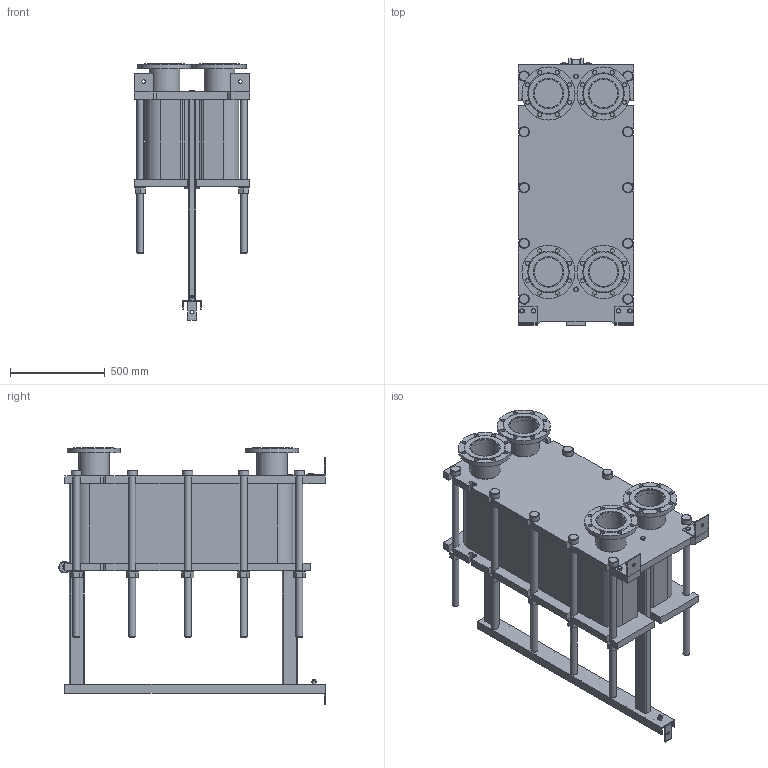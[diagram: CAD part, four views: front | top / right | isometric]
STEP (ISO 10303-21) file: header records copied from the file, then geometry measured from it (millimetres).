
FILE_DESCRIPTION(/* description */ (''),/* implementation_level */ '2;1');
FILE_NAME(/* name */ 'C:\Users\zhuro\Desktop\ENCO\TO\ЭН-041\ЭН-0,5-041-122-1.stp',/* time_stamp */ '2022-06-06T10:59:46+03:00',/* author */ ('zhuro'),/* organization */ (''),/* preprocessor_version */ 'ST-DEVELOPER v18.1',/* originating_system */ 'Autodesk Inventor 2022',/* authorisation */ '');
FILE_SCHEMA (('AUTOMOTIVE_DESIGN { 1 0 10303 214 3 1 1 }'));
Length unit declared in the file: millimetre
Products named in the file (1): ЭН-0,5-041-122-1
Bounding box: 610 x 1406.5 x 1355 mm (x, y, z)
Volume: 318748998.8 mm3; surface area: 9509593.1 mm2
Topology: 52 solids, 52 shells, 711 faces, 1696 edges, 1094 vertices
Faces by surface type: plane 487, cylinder 177, cone 41, torus 6
Full cylindrical faces by diameter (mm): 8 x4, 10 x2, 16 x8, 18 x3, 22 x32, 36 x24, 50 x1, 54 x10, 60 x12, 151 x4, 161 x8, 280 x4
Entity records: 22667 total; most frequent: CARTESIAN_POINT 5230, DIRECTION 3644, ORIENTED_EDGE 3392, EDGE_CURVE 1696, AXIS2_PLACEMENT_3D 1272, LINE 1100, VECTOR 1100, VERTEX_POINT 1094
